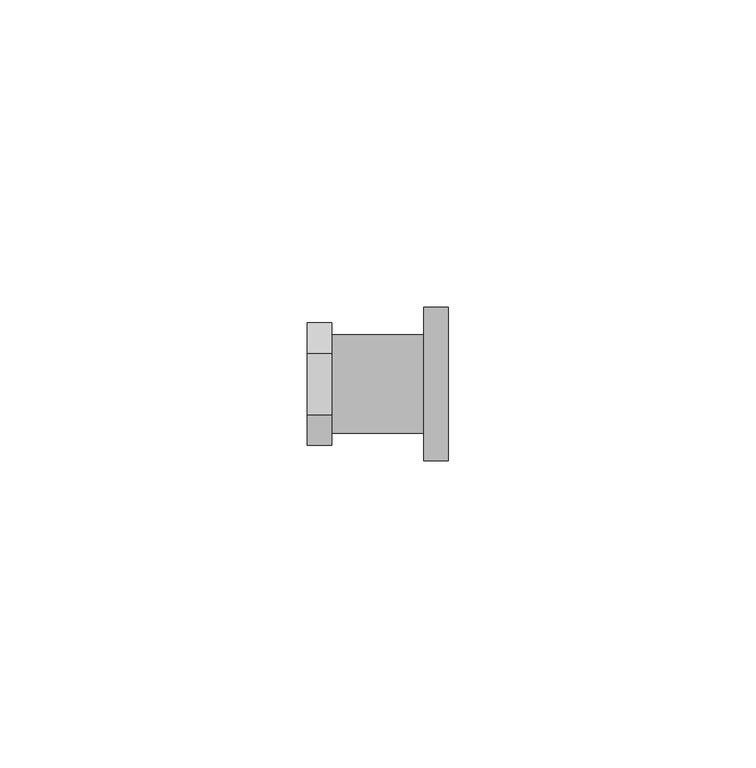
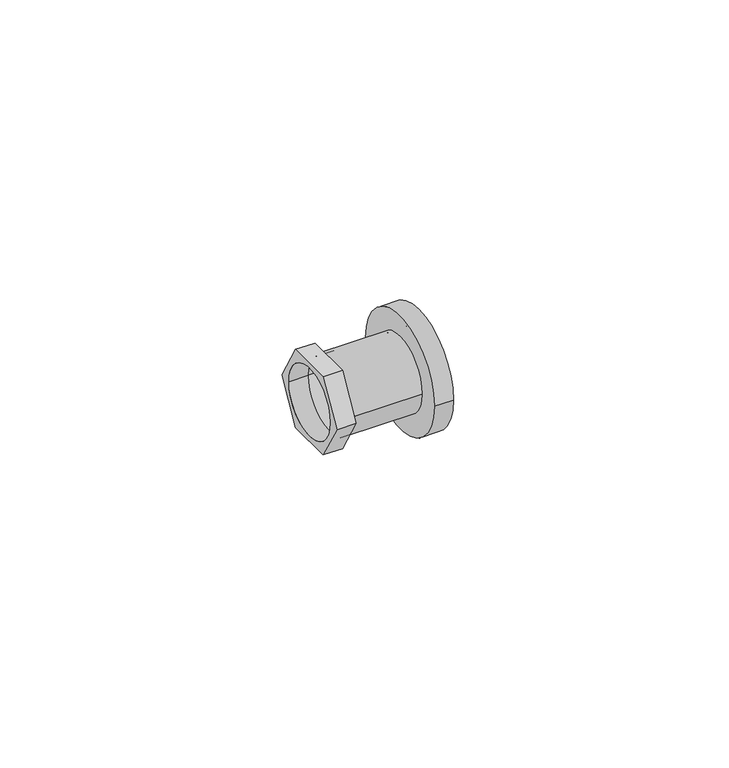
"""IFC4 building model written with IfcOpenShell, lengths in millimetres: pipe fitting geometry, БИР ПЕКС_НПР_Соединитель_Гайка накидная : Соединитель прямой с накидной гайкой."""

from ifc_helpers import new_model, si_unit, point, frame, origin, origin_2d, place, context, project, spatial, polyline, circle_curve, trimmed, segment, composite_curve, outline, extrude, source, transform, mapped, element, save


def pipe_fitting_6bd9dd5b(model_context):
    return source(origin(), model_context, "Body", "SweptSolid", [
        extrude(outline(polyline([(-5.0, -8.660254), (-10.0, 0.0), (-5.0, 8.660254), (5.0, 8.660254), (10.0, 0.0), (5.0, -8.660254), (-5.0, -8.660254)]), holes=[composite_curve([segment(trimmed(circle_curve(origin_2d(), 7.5), [point((-7.5, 0.0))], [point((7.5, 0.0))], True, "CARTESIAN"), True, "CONTINUOUS"), segment(trimmed(circle_curve(origin_2d(), 7.5), [point((7.5, 0.0))], [point((-7.5, 0.0))], True, "CARTESIAN"), True, "CONTINUOUS")], self_intersect=False)]), frame((-11.5, 0.0, 0.0), z_axis=(1.0, 0.0, 0.0), x_axis=(0.0, 1.0, 0.0)), (0.0, 0.0, 1.0), 4.0),
        extrude(outline(composite_curve([segment(trimmed(circle_curve(origin_2d(), 8.0), [point((-8.0, 0.0))], [point((8.0, 0.0))], False, "CARTESIAN"), True, "CONTINUOUS"), segment(trimmed(circle_curve(origin_2d(), 8.0), [point((8.0, 0.0))], [point((-8.0, 0.0))], False, "CARTESIAN"), True, "CONTINUOUS")], self_intersect=False), holes=[composite_curve([segment(trimmed(circle_curve(origin_2d(), 7.5), [point((-7.5, 0.0))], [point((7.5, 0.0))], True, "CARTESIAN"), True, "CONTINUOUS"), segment(trimmed(circle_curve(origin_2d(), 7.5), [point((7.5, 0.0))], [point((-7.5, 0.0))], True, "CARTESIAN"), True, "CONTINUOUS")], self_intersect=False)]), frame((-7.5, 0.0, 0.0), z_axis=(1.0, 0.0, 0.0), x_axis=(0.0, 1.0, 0.0)), (0.0, 0.0, 1.0), 15.0),
        extrude(outline(composite_curve([segment(trimmed(circle_curve(origin_2d(), 12.5), [point((-12.5, 0.0))], [point((12.5, 0.0))], False, "CARTESIAN"), True, "CONTINUOUS"), segment(trimmed(circle_curve(origin_2d(), 12.5), [point((12.5, 0.0))], [point((-12.5, 0.0))], False, "CARTESIAN"), True, "CONTINUOUS")], self_intersect=False), holes=[composite_curve([segment(trimmed(circle_curve(origin_2d(), 7.5), [point((-7.5, 0.0))], [point((7.5, 0.0))], True, "CARTESIAN"), True, "CONTINUOUS"), segment(trimmed(circle_curve(origin_2d(), 7.5), [point((7.5, 0.0))], [point((-7.5, 0.0))], True, "CARTESIAN"), True, "CONTINUOUS")], self_intersect=False)]), frame((7.5, 0.0, 0.0), z_axis=(1.0, 0.0, 0.0), x_axis=(0.0, 1.0, 0.0)), (0.0, 0.0, 1.0), 4.0),
    ])


if __name__ == "__main__":
    model = new_model("IFC4")
    model_context = context("Model", 3, world=origin())
    ifc_project = project(units=[si_unit("LENGTHUNIT", "METRE", prefix="MILLI")], contexts=[model_context])
    site = spatial("IfcSite", under=ifc_project)
    building = spatial("IfcBuilding", under=site)
    placement = place(None, origin())
    pipe_fitting_shape = pipe_fitting_6bd9dd5b(model_context)
    element("IfcPipeFitting", 1, ObjectType="БИР ПЕКС_НПР_Соединитель_Гайка накидная : Соединитель прямой с накидной гайкой", at=placement, inside=building, context=model_context, shape_type="MappedRepresentation", body=[
        mapped(pipe_fitting_shape, transform((0.0, 0.0, 0.0), x_axis=(1.0, 0.0, 0.0), y_axis=(0.0, 1.0, 0.0), z_axis=(0.0, 0.0, 1.0))),
    ])
    save(model, "model.ifc")
